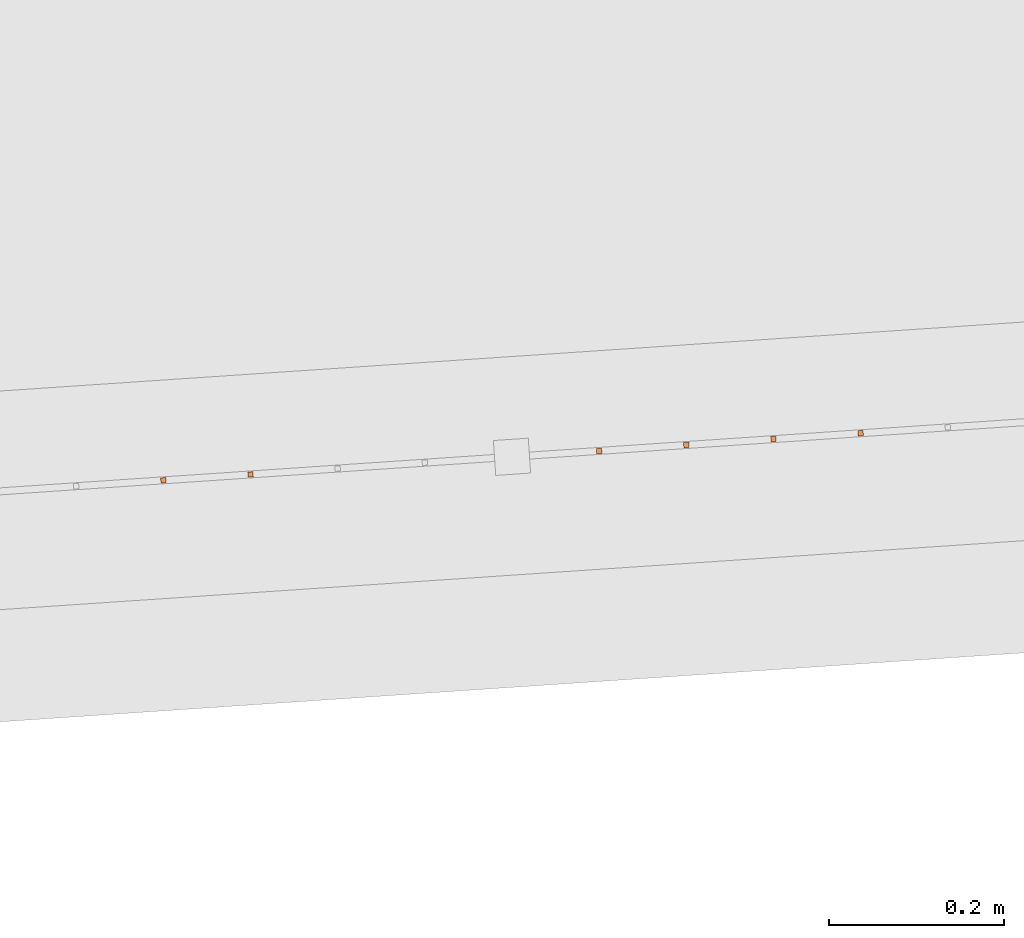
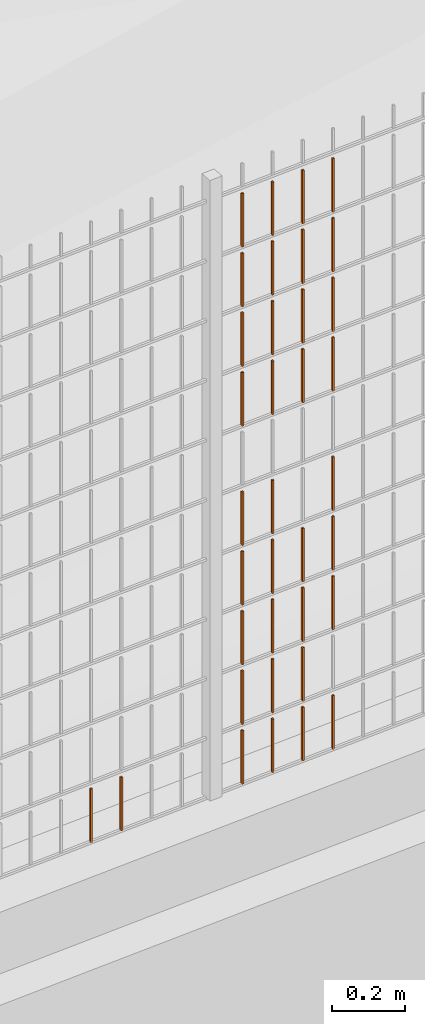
# One storey, part 132 of 1809: 36 proxies, 1 element without a shape of its own.
"""IFC2X3 building model written with IfcOpenShell, lengths in millimetres."""

from ifc_helpers import new_model, entity, si_unit, converted_unit, derived_unit, money_unit, direction, frame, origin_with_axes, place, context, subcontext, project, spatial, faceted_brep, source, transform, mapped, material, type_object, element, aggregate, save


model = new_model("IFC2X3")

# Units and contexts
model_context = context("Model", 3, precision=0.01, world=origin_with_axes(), true_north=direction((0.0, 1.0)))
body_context = subcontext(model_context, "Body", "Model", "MODEL_VIEW")
ifc_project = project(units=[si_unit("LENGTHUNIT", "METRE", prefix="MILLI"), si_unit("AREAUNIT", "SQUARE_METRE"), si_unit("VOLUMEUNIT", "CUBIC_METRE"), converted_unit("PLANEANGLEUNIT", "DEGREE", entity("IfcPlaneAngleMeasure", 0.0174532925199), si_unit("PLANEANGLEUNIT", "RADIAN"), dimensions=[0, 0, 0, 0, 0, 0, 0]), si_unit("SOLIDANGLEUNIT", "STERADIAN"), money_unit("EUR"), converted_unit("TIMEUNIT", "Year", entity("IfcTimeMeasure", 31556926.0), si_unit("TIMEUNIT", "SECOND"), dimensions=[0, 0, 1, 0, 0, 0, 0]), si_unit("MASSUNIT", "GRAM", prefix="KILO"), si_unit("THERMODYNAMICTEMPERATUREUNIT", "DEGREE_CELSIUS"), si_unit("LUMINOUSINTENSITYUNIT", "LUMEN"), si_unit("ENERGYUNIT", "JOULE", prefix="MEGA"), derived_unit("THERMALCONDUCTANCEUNIT", [(si_unit("POWERUNIT", "WATT"), 1), (si_unit("LENGTHUNIT", "METRE"), -1), (si_unit("THERMODYNAMICTEMPERATUREUNIT", "KELVIN"), -1)]), derived_unit("SPECIFICHEATCAPACITYUNIT", [(si_unit("ENERGYUNIT", "JOULE"), 1), (si_unit("MASSUNIT", "GRAM", prefix="KILO"), -1), (si_unit("THERMODYNAMICTEMPERATUREUNIT", "KELVIN"), -1)]), derived_unit("MASSDENSITYUNIT", [(si_unit("MASSUNIT", "GRAM", prefix="KILO"), 1), (si_unit("VOLUMEUNIT", "CUBIC_METRE"), -1)])], contexts=[model_context])

# Site, building, storey
site_placement = place(None, origin_with_axes())
site = spatial("IfcSite", under=ifc_project, at=site_placement, Name="Politse- ja Piirivalveameti ning Päästeameti ühishoone", CompositionType="ELEMENT")
building_placement = place(site_placement, origin_with_axes())
building = spatial("IfcBuilding", under=site, at=building_placement, Name="Politse- ja Piirivalveameti ning Päästeameti ühishoone", CompositionType="ELEMENT")
storey_placement = place(building_placement, origin_with_axes())
storey = spatial("IfcBuildingStorey", under=building, at=storey_placement, Name="Esimene korrus", CompositionType="ELEMENT", Elevation=0.0)

# Proxies
building_element_proxy_type_1 = type_object("IfcBuildingElementProxyType", Name="Railing Type", PredefinedType="NOTDEFINED")
proxy_1_placement = place(storey_placement, frame((89252.001212, -29183.4766571, 203.661247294), z_axis=(0.0, 0.0, 1.0), x_axis=(1.0, 0.0, 0.0)))
proxy_1 = element("IfcBuildingElementProxy", 1, at=proxy_1_placement, inside=storey, type_object=building_element_proxy_type_1, Name="PIIRDEAED")
ifc_material = material(Name="ET-03_Raud")
building_element_proxy_type_2 = type_object("IfcBuildingElementProxyType", Name="IfcBuildingElementProxy", PredefinedType="NOTDEFINED")
shared_shape_1 = source(origin_with_axes(), body_context, "Body", "Brep", [
    faceted_brep([(3.0, 3.0, -0.000752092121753), (-3.0, 3.0, -0.000752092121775), (-3.0, 3.0, 179.99926046), (3.0, 3.0, 179.99926046), (3.0, -3.0, 0.000752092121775), (-3.0, -3.0, 0.000752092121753), (-3.0, -3.0, 180.000764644), (3.0, -3.0, 180.000764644)], [[[0, 1, 2, 3]], [[0, 4, 5, 1]], [[1, 5, 6, 2]], [[3, 2, 6, 7]], [[4, 0, 3, 7]], [[5, 4, 7, 6]]]),
])
proxy_2_placement = place(proxy_1_placement, frame((-89522.6970571, -23344.6951013, 1204.74014047), z_axis=(0.0, 0.0, 1.0), x_axis=(1.0, 0.0, 0.0)))
proxy_2 = element("IfcBuildingElementProxy", 2, at=proxy_2_placement, type_object=building_element_proxy_type_2, material=ifc_material, Name="BALUSTER - 001", context=body_context, shape_type="MappedRepresentation", body=[
    mapped(shared_shape_1, transform((0.0, 0.0, 0.0), x_axis=(-0.0673926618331, 0.997726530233, 0.0), y_axis=(-0.997726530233, -0.0673926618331, 0.0), z_axis=(0.0, 0.0, 1.0))),
])
shared_shape_2 = source(origin_with_axes(), body_context, "Body", "Brep", [
    faceted_brep([(3.0, 3.0, -0.000752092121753), (-3.0, 3.0, -0.000752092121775), (-3.0, 3.0, 179.99926046), (3.0, 3.0, 179.99926046), (3.0, -3.0, 0.000752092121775), (-3.0, -3.0, 0.000752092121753), (-3.0, -3.0, 180.000764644), (3.0, -3.0, 180.000764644)], [[[0, 1, 2, 3]], [[0, 4, 5, 1]], [[1, 5, 6, 2]], [[3, 2, 6, 7]], [[4, 0, 3, 7]], [[5, 4, 7, 6]]]),
])
proxy_3_placement = place(proxy_1_placement, frame((-89522.6970571, -23344.6951013, 1404.74014047), z_axis=(0.0, 0.0, 1.0), x_axis=(1.0, 0.0, 0.0)))
proxy_3 = element("IfcBuildingElementProxy", 3, at=proxy_3_placement, type_object=building_element_proxy_type_2, material=ifc_material, Name="BALUSTER - 001", context=body_context, shape_type="MappedRepresentation", body=[
    mapped(shared_shape_2, transform((0.0, 0.0, 0.0), x_axis=(-0.0673926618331, 0.997726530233, 0.0), y_axis=(-0.997726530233, -0.0673926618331, 0.0), z_axis=(0.0, 0.0, 1.0))),
])
proxy_4_placement = place(proxy_1_placement, frame((-89522.6970571, -23344.6951013, 1604.74014047), z_axis=(0.0, 0.0, 1.0), x_axis=(1.0, 0.0, 0.0)))
proxy_4 = element("IfcBuildingElementProxy", 4, at=proxy_4_placement, type_object=building_element_proxy_type_2, material=ifc_material, Name="BALUSTER - 001", context=body_context, shape_type="MappedRepresentation", body=[
    mapped(shared_shape_2, transform((0.0, 0.0, 0.0), x_axis=(-0.0673926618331, 0.997726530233, 0.0), y_axis=(-0.997726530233, -0.0673926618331, 0.0), z_axis=(0.0, 0.0, 1.0))),
])
shared_shape_3 = source(origin_with_axes(), body_context, "Body", "Brep", [
    faceted_brep([(3.0, 3.0, -0.000752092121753), (-3.0, 3.0, -0.000752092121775), (-3.0, 3.0, 179.99926046), (3.0, 3.0, 179.99926046), (3.0, -3.0, 0.000752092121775), (-3.0, -3.0, 0.000752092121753), (-3.0, -3.0, 180.000764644), (3.0, -3.0, 180.000764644)], [[[0, 1, 2, 3]], [[0, 4, 5, 1]], [[1, 5, 6, 2]], [[3, 2, 6, 7]], [[4, 0, 3, 7]], [[5, 4, 7, 6]]]),
])
proxy_5_placement = place(proxy_1_placement, frame((-89223.379098, -23324.4773028, 404.815349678), z_axis=(0.0, 0.0, 1.0), x_axis=(1.0, 0.0, 0.0)))
proxy_5 = element("IfcBuildingElementProxy", 5, at=proxy_5_placement, type_object=building_element_proxy_type_2, material=ifc_material, Name="BALUSTER - 001", context=body_context, shape_type="MappedRepresentation", body=[
    mapped(shared_shape_3, transform((0.0, 0.0, 0.0), x_axis=(-0.0673926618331, 0.997726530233, 0.0), y_axis=(-0.997726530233, -0.0673926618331, 0.0), z_axis=(0.0, 0.0, 1.0))),
])
proxy_6_placement = place(proxy_1_placement, frame((-89223.379098, -23324.4773028, 604.815349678), z_axis=(0.0, 0.0, 1.0), x_axis=(1.0, 0.0, 0.0)))
proxy_6 = element("IfcBuildingElementProxy", 6, at=proxy_6_placement, type_object=building_element_proxy_type_2, material=ifc_material, Name="BALUSTER - 001", context=body_context, shape_type="MappedRepresentation", body=[
    mapped(shared_shape_3, transform((0.0, 0.0, 0.0), x_axis=(-0.0673926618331, 0.997726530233, 0.0), y_axis=(-0.997726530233, -0.0673926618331, 0.0), z_axis=(0.0, 0.0, 1.0))),
])
shared_shape_4 = source(origin_with_axes(), body_context, "Body", "Brep", [
    faceted_brep([(3.0, 3.0, -0.000752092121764), (-3.0, 3.0, -0.000752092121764), (-3.0, 3.0, 179.99926046), (3.0, 3.0, 179.99926046), (3.0, -3.0, 0.000752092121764), (-3.0, -3.0, 0.000752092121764), (-3.0, -3.0, 180.000764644), (3.0, -3.0, 180.000764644)], [[[0, 1, 2, 3]], [[0, 4, 5, 1]], [[1, 5, 6, 2]], [[3, 2, 6, 7]], [[4, 0, 3, 7]], [[5, 4, 7, 6]]]),
])
proxy_7_placement = place(proxy_1_placement, frame((-89522.6970571, -23344.6951013, 804.740140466), z_axis=(0.0, 0.0, 1.0), x_axis=(1.0, 0.0, 0.0)))
proxy_7 = element("IfcBuildingElementProxy", 7, at=proxy_7_placement, type_object=building_element_proxy_type_2, material=ifc_material, Name="BALUSTER - 001", context=body_context, shape_type="MappedRepresentation", body=[
    mapped(shared_shape_4, transform((0.0, 0.0, 0.0), x_axis=(-0.0673926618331, 0.997726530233, 0.0), y_axis=(-0.997726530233, -0.0673926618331, 0.0), z_axis=(0.0, 0.0, 1.0))),
])
shared_shape_5 = source(origin_with_axes(), body_context, "Body", "Brep", [
    faceted_brep([(3.0, 3.0, -0.000752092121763), (-3.0, 3.0, -0.000752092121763), (-3.0, 3.0, 179.99926046), (3.0, 3.0, 179.99926046), (3.0, -3.0, 0.000752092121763), (-3.0, -3.0, 0.000752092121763), (-3.0, -3.0, 180.000764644), (3.0, -3.0, 180.000764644)], [[[0, 1, 2, 3]], [[0, 4, 5, 1]], [[1, 5, 6, 2]], [[3, 2, 6, 7]], [[4, 0, 3, 7]], [[5, 4, 7, 6]]]),
])
proxy_8_placement = place(proxy_1_placement, frame((-90021.5603222, -23378.3914323, 4.61479177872), z_axis=(0.0, 0.0, 1.0), x_axis=(1.0, 0.0, 0.0)))
proxy_8 = element("IfcBuildingElementProxy", 8, at=proxy_8_placement, type_object=building_element_proxy_type_2, material=ifc_material, Name="BALUSTER - 001", context=body_context, shape_type="MappedRepresentation", body=[
    mapped(shared_shape_5, transform((0.0, 0.0, 0.0), x_axis=(-0.0673926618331, 0.997726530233, 0.0), y_axis=(-0.997726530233, -0.0673926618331, 0.0), z_axis=(0.0, 0.0, 1.0))),
])
shared_shape_6 = source(origin_with_axes(), body_context, "Body", "Brep", [
    faceted_brep([(3.0, 3.0, -0.000752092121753), (-3.0, 3.0, -0.000752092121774), (-3.0, 3.0, 179.99926046), (3.0, 3.0, 179.99926046), (3.0, -3.0, 0.000752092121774), (-3.0, -3.0, 0.000752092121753), (-3.0, -3.0, 180.000764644), (3.0, -3.0, 180.000764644)], [[[0, 1, 2, 3]], [[0, 4, 5, 1]], [[1, 5, 6, 2]], [[3, 2, 6, 7]], [[4, 0, 3, 7]], [[5, 4, 7, 6]]]),
])
proxy_9_placement = place(proxy_1_placement, frame((-89223.379098, -23324.4773028, 4.81534967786), z_axis=(0.0, 0.0, 1.0), x_axis=(1.0, 0.0, 0.0)))
proxy_9 = element("IfcBuildingElementProxy", 9, at=proxy_9_placement, type_object=building_element_proxy_type_2, material=ifc_material, Name="BALUSTER - 001", context=body_context, shape_type="MappedRepresentation", body=[
    mapped(shared_shape_6, transform((0.0, 0.0, 0.0), x_axis=(-0.0673926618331, 0.997726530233, 0.0), y_axis=(-0.997726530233, -0.0673926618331, 0.0), z_axis=(0.0, 0.0, 1.0))),
])
shared_shape_7 = source(origin_with_axes(), body_context, "Body", "Brep", [
    faceted_brep([(3.0, 3.0, -0.000752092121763), (-3.0, 3.0, -0.000752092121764), (-3.0, 3.0, 179.99926046), (3.0, 3.0, 179.99926046), (3.0, -3.0, 0.000752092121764), (-3.0, -3.0, 0.000752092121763), (-3.0, -3.0, 180.000764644), (3.0, -3.0, 180.000764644)], [[[0, 1, 2, 3]], [[0, 4, 5, 1]], [[1, 5, 6, 2]], [[3, 2, 6, 7]], [[4, 0, 3, 7]], [[5, 4, 7, 6]]]),
])
proxy_10_placement = place(proxy_1_placement, frame((-89522.6970571, -23344.6951013, 4.74014046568), z_axis=(0.0, 0.0, 1.0), x_axis=(1.0, 0.0, 0.0)))
proxy_10 = element("IfcBuildingElementProxy", 10, at=proxy_10_placement, type_object=building_element_proxy_type_2, material=ifc_material, Name="BALUSTER - 001", context=body_context, shape_type="MappedRepresentation", body=[
    mapped(shared_shape_7, transform((0.0, 0.0, 0.0), x_axis=(-0.0673926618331, 0.997726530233, 0.0), y_axis=(-0.997726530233, -0.0673926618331, 0.0), z_axis=(0.0, 0.0, 1.0))),
])
shared_shape_8 = source(origin_with_axes(), body_context, "Body", "Brep", [
    faceted_brep([(3.0, 3.0, -0.000752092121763), (-3.0, 3.0, -0.000752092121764), (-3.0, 3.0, 179.99926046), (3.0, 3.0, 179.99926046), (3.0, -3.0, 0.000752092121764), (-3.0, -3.0, 0.000752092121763), (-3.0, -3.0, 180.000764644), (3.0, -3.0, 180.000764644)], [[[0, 1, 2, 3]], [[0, 4, 5, 1]], [[1, 5, 6, 2]], [[3, 2, 6, 7]], [[4, 0, 3, 7]], [[5, 4, 7, 6]]]),
])
proxy_11_placement = place(proxy_1_placement, frame((-89323.151751, -23331.216569, 4.79027994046), z_axis=(0.0, 0.0, 1.0), x_axis=(1.0, 0.0, 0.0)))
proxy_11 = element("IfcBuildingElementProxy", 11, at=proxy_11_placement, type_object=building_element_proxy_type_2, material=ifc_material, Name="BALUSTER - 001", context=body_context, shape_type="MappedRepresentation", body=[
    mapped(shared_shape_8, transform((0.0, 0.0, 0.0), x_axis=(-0.0673926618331, 0.997726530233, 0.0), y_axis=(-0.997726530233, -0.0673926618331, 0.0), z_axis=(0.0, 0.0, 1.0))),
])
shared_shape_9 = source(origin_with_axes(), body_context, "Body", "Brep", [
    faceted_brep([(3.0, 3.0, -0.000752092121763), (-3.0, 3.0, -0.000752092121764), (-3.0, 3.0, 179.99926046), (3.0, 3.0, 179.99926046), (3.0, -3.0, 0.000752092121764), (-3.0, -3.0, 0.000752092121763), (-3.0, -3.0, 180.000764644), (3.0, -3.0, 180.000764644)], [[[0, 1, 2, 3]], [[0, 4, 5, 1]], [[1, 5, 6, 2]], [[3, 2, 6, 7]], [[4, 0, 3, 7]], [[5, 4, 7, 6]]]),
])
proxy_12_placement = place(proxy_1_placement, frame((-89422.9244041, -23337.9558352, 4.76521020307), z_axis=(0.0, 0.0, 1.0), x_axis=(1.0, 0.0, 0.0)))
proxy_12 = element("IfcBuildingElementProxy", 12, at=proxy_12_placement, type_object=building_element_proxy_type_2, material=ifc_material, Name="BALUSTER - 001", context=body_context, shape_type="MappedRepresentation", body=[
    mapped(shared_shape_9, transform((0.0, 0.0, 0.0), x_axis=(-0.0673926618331, 0.997726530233, 0.0), y_axis=(-0.997726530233, -0.0673926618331, 0.0), z_axis=(0.0, 0.0, 1.0))),
])
shared_shape_10 = source(origin_with_axes(), body_context, "Body", "Brep", [
    faceted_brep([(3.0, 3.0, -0.000752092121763), (-3.0, 3.0, -0.000752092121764), (-3.0, 3.0, 179.99926046), (3.0, 3.0, 179.99926046), (3.0, -3.0, 0.000752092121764), (-3.0, -3.0, 0.000752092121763), (-3.0, -3.0, 180.000764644), (3.0, -3.0, 180.000764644)], [[[0, 1, 2, 3]], [[0, 4, 5, 1]], [[1, 5, 6, 2]], [[3, 2, 6, 7]], [[4, 0, 3, 7]], [[5, 4, 7, 6]]]),
])
proxy_13_placement = place(proxy_1_placement, frame((-89422.9244041, -23337.9558352, 404.765210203), z_axis=(0.0, 0.0, 1.0), x_axis=(1.0, 0.0, 0.0)))
proxy_13 = element("IfcBuildingElementProxy", 13, at=proxy_13_placement, type_object=building_element_proxy_type_2, material=ifc_material, Name="BALUSTER - 001", context=body_context, shape_type="MappedRepresentation", body=[
    mapped(shared_shape_10, transform((0.0, 0.0, 0.0), x_axis=(-0.0673926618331, 0.997726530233, 0.0), y_axis=(-0.997726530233, -0.0673926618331, 0.0), z_axis=(0.0, 0.0, 1.0))),
])
proxy_14_placement = place(proxy_1_placement, frame((-89522.6970571, -23344.6951013, 604.740140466), z_axis=(0.0, 0.0, 1.0), x_axis=(1.0, 0.0, 0.0)))
proxy_14 = element("IfcBuildingElementProxy", 14, at=proxy_14_placement, type_object=building_element_proxy_type_2, material=ifc_material, Name="BALUSTER - 001", context=body_context, shape_type="MappedRepresentation", body=[
    mapped(shared_shape_10, transform((0.0, 0.0, 0.0), x_axis=(-0.0673926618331, 0.997726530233, 0.0), y_axis=(-0.997726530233, -0.0673926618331, 0.0), z_axis=(0.0, 0.0, 1.0))),
])
shared_shape_11 = source(origin_with_axes(), body_context, "Body", "Brep", [
    faceted_brep([(3.0, 3.0, -0.000752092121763), (-3.0, 3.0, -0.000752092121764), (-3.0, 3.0, 179.99926046), (3.0, 3.0, 179.99926046), (3.0, -3.0, 0.000752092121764), (-3.0, -3.0, 0.000752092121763), (-3.0, -3.0, 180.000764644), (3.0, -3.0, 180.000764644)], [[[0, 1, 2, 3]], [[0, 4, 5, 1]], [[1, 5, 6, 2]], [[3, 2, 6, 7]], [[4, 0, 3, 7]], [[5, 4, 7, 6]]]),
])
proxy_15_placement = place(proxy_1_placement, frame((-89522.6970571, -23344.6951013, 204.740140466), z_axis=(0.0, 0.0, 1.0), x_axis=(1.0, 0.0, 0.0)))
proxy_15 = element("IfcBuildingElementProxy", 15, at=proxy_15_placement, type_object=building_element_proxy_type_2, material=ifc_material, Name="BALUSTER - 001", context=body_context, shape_type="MappedRepresentation", body=[
    mapped(shared_shape_11, transform((0.0, 0.0, 0.0), x_axis=(-0.0673926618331, 0.997726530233, 0.0), y_axis=(-0.997726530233, -0.0673926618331, 0.0), z_axis=(0.0, 0.0, 1.0))),
])
shared_shape_12 = source(origin_with_axes(), body_context, "Body", "Brep", [
    faceted_brep([(3.0, 3.0, -0.000752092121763), (-3.0, 3.0, -0.000752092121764), (-3.0, 3.0, 179.99926046), (3.0, 3.0, 179.99926046), (3.0, -3.0, 0.000752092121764), (-3.0, -3.0, 0.000752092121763), (-3.0, -3.0, 180.000764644), (3.0, -3.0, 180.000764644)], [[[0, 1, 2, 3]], [[0, 4, 5, 1]], [[1, 5, 6, 2]], [[3, 2, 6, 7]], [[4, 0, 3, 7]], [[5, 4, 7, 6]]]),
])
proxy_16_placement = place(proxy_1_placement, frame((-89422.9244041, -23337.9558352, 204.765210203), z_axis=(0.0, 0.0, 1.0), x_axis=(1.0, 0.0, 0.0)))
proxy_16 = element("IfcBuildingElementProxy", 16, at=proxy_16_placement, type_object=building_element_proxy_type_2, material=ifc_material, Name="BALUSTER - 001", context=body_context, shape_type="MappedRepresentation", body=[
    mapped(shared_shape_12, transform((0.0, 0.0, 0.0), x_axis=(-0.0673926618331, 0.997726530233, 0.0), y_axis=(-0.997726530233, -0.0673926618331, 0.0), z_axis=(0.0, 0.0, 1.0))),
])
proxy_17_placement = place(proxy_1_placement, frame((-89522.6970571, -23344.6951013, 404.740140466), z_axis=(0.0, 0.0, 1.0), x_axis=(1.0, 0.0, 0.0)))
proxy_17 = element("IfcBuildingElementProxy", 17, at=proxy_17_placement, type_object=building_element_proxy_type_2, material=ifc_material, Name="BALUSTER - 001", context=body_context, shape_type="MappedRepresentation", body=[
    mapped(shared_shape_12, transform((0.0, 0.0, 0.0), x_axis=(-0.0673926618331, 0.997726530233, 0.0), y_axis=(-0.997726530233, -0.0673926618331, 0.0), z_axis=(0.0, 0.0, 1.0))),
])
proxy_18_placement = place(proxy_1_placement, frame((-89422.9244041, -23337.9558352, 604.765210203), z_axis=(0.0, 0.0, 1.0), x_axis=(1.0, 0.0, 0.0)))
proxy_18 = element("IfcBuildingElementProxy", 18, at=proxy_18_placement, type_object=building_element_proxy_type_2, material=ifc_material, Name="BALUSTER - 001", context=body_context, shape_type="MappedRepresentation", body=[
    mapped(shared_shape_12, transform((0.0, 0.0, 0.0), x_axis=(-0.0673926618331, 0.997726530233, 0.0), y_axis=(-0.997726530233, -0.0673926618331, 0.0), z_axis=(0.0, 0.0, 1.0))),
])
shared_shape_13 = source(origin_with_axes(), body_context, "Body", "Brep", [
    faceted_brep([(3.0, 3.0, -0.000752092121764), (-3.0, 3.0, -0.000752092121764), (-3.0, 3.0, 179.99926046), (3.0, 3.0, 179.99926046), (3.0, -3.0, 0.000752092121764), (-3.0, -3.0, 0.000752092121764), (-3.0, -3.0, 180.000764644), (3.0, -3.0, 180.000764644)], [[[0, 1, 2, 3]], [[0, 4, 5, 1]], [[1, 5, 6, 2]], [[3, 2, 6, 7]], [[4, 0, 3, 7]], [[5, 4, 7, 6]]]),
])
proxy_19_placement = place(proxy_1_placement, frame((-89323.151751, -23331.216569, 1204.79027994), z_axis=(0.0, 0.0, 1.0), x_axis=(1.0, 0.0, 0.0)))
proxy_19 = element("IfcBuildingElementProxy", 19, at=proxy_19_placement, type_object=building_element_proxy_type_2, material=ifc_material, Name="BALUSTER - 001", context=body_context, shape_type="MappedRepresentation", body=[
    mapped(shared_shape_13, transform((0.0, 0.0, 0.0), x_axis=(-0.0673926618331, 0.997726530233, 0.0), y_axis=(-0.997726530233, -0.0673926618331, 0.0), z_axis=(0.0, 0.0, 1.0))),
])
shared_shape_14 = source(origin_with_axes(), body_context, "Body", "Brep", [
    faceted_brep([(3.0, 3.0, -0.000752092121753), (-3.0, 3.0, -0.000752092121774), (-3.0, 3.0, 179.99926046), (3.0, 3.0, 179.99926046), (3.0, -3.0, 0.000752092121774), (-3.0, -3.0, 0.000752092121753), (-3.0, -3.0, 180.000764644), (3.0, -3.0, 180.000764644)], [[[0, 1, 2, 3]], [[0, 4, 5, 1]], [[1, 5, 6, 2]], [[3, 2, 6, 7]], [[4, 0, 3, 7]], [[5, 4, 7, 6]]]),
])
proxy_20_placement = place(proxy_1_placement, frame((-89223.379098, -23324.4773028, 804.815349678), z_axis=(0.0, 0.0, 1.0), x_axis=(1.0, 0.0, 0.0)))
proxy_20 = element("IfcBuildingElementProxy", 20, at=proxy_20_placement, type_object=building_element_proxy_type_2, material=ifc_material, Name="BALUSTER - 001", context=body_context, shape_type="MappedRepresentation", body=[
    mapped(shared_shape_14, transform((0.0, 0.0, 0.0), x_axis=(-0.0673926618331, 0.997726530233, 0.0), y_axis=(-0.997726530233, -0.0673926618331, 0.0), z_axis=(0.0, 0.0, 1.0))),
])
proxy_21_placement = place(proxy_1_placement, frame((-89223.379098, -23324.4773028, 1204.81534968), z_axis=(0.0, 0.0, 1.0), x_axis=(1.0, 0.0, 0.0)))
proxy_21 = element("IfcBuildingElementProxy", 21, at=proxy_21_placement, type_object=building_element_proxy_type_2, material=ifc_material, Name="BALUSTER - 001", context=body_context, shape_type="MappedRepresentation", body=[
    mapped(shared_shape_14, transform((0.0, 0.0, 0.0), x_axis=(-0.0673926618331, 0.997726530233, 0.0), y_axis=(-0.997726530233, -0.0673926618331, 0.0), z_axis=(0.0, 0.0, 1.0))),
])
shared_shape_15 = source(origin_with_axes(), body_context, "Body", "Brep", [
    faceted_brep([(3.0, 3.0, -0.000752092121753), (-3.0, 3.0, -0.000752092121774), (-3.0, 3.0, 179.99926046), (3.0, 3.0, 179.99926046), (3.0, -3.0, 0.000752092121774), (-3.0, -3.0, 0.000752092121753), (-3.0, -3.0, 180.000764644), (3.0, -3.0, 180.000764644)], [[[0, 1, 2, 3]], [[0, 4, 5, 1]], [[1, 5, 6, 2]], [[3, 2, 6, 7]], [[4, 0, 3, 7]], [[5, 4, 7, 6]]]),
])
proxy_22_placement = place(proxy_1_placement, frame((-89223.379098, -23324.4773028, 1804.81534968), z_axis=(0.0, 0.0, 1.0), x_axis=(1.0, 0.0, 0.0)))
proxy_22 = element("IfcBuildingElementProxy", 22, at=proxy_22_placement, type_object=building_element_proxy_type_2, material=ifc_material, Name="BALUSTER - 001", context=body_context, shape_type="MappedRepresentation", body=[
    mapped(shared_shape_15, transform((0.0, 0.0, 0.0), x_axis=(-0.0673926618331, 0.997726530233, 0.0), y_axis=(-0.997726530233, -0.0673926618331, 0.0), z_axis=(0.0, 0.0, 1.0))),
])
shared_shape_16 = source(origin_with_axes(), body_context, "Body", "Brep", [
    faceted_brep([(3.0, 3.0, -0.000752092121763), (-3.0, 3.0, -0.000752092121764), (-3.0, 3.0, 179.99926046), (3.0, 3.0, 179.99926046), (3.0, -3.0, 0.000752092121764), (-3.0, -3.0, 0.000752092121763), (-3.0, -3.0, 180.000764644), (3.0, -3.0, 180.000764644)], [[[0, 1, 2, 3]], [[0, 4, 5, 1]], [[1, 5, 6, 2]], [[3, 2, 6, 7]], [[4, 0, 3, 7]], [[5, 4, 7, 6]]]),
])
proxy_23_placement = place(proxy_1_placement, frame((-89422.9244041, -23337.9558352, 1204.7652102), z_axis=(0.0, 0.0, 1.0), x_axis=(1.0, 0.0, 0.0)))
proxy_23 = element("IfcBuildingElementProxy", 23, at=proxy_23_placement, type_object=building_element_proxy_type_2, material=ifc_material, Name="BALUSTER - 001", context=body_context, shape_type="MappedRepresentation", body=[
    mapped(shared_shape_16, transform((0.0, 0.0, 0.0), x_axis=(-0.0673926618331, 0.997726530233, 0.0), y_axis=(-0.997726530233, -0.0673926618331, 0.0), z_axis=(0.0, 0.0, 1.0))),
])
shared_shape_17 = source(origin_with_axes(), body_context, "Body", "Brep", [
    faceted_brep([(3.0, 3.0, -0.000752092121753), (-3.0, 3.0, -0.000752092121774), (-3.0, 3.0, 179.99926046), (3.0, 3.0, 179.99926046), (3.0, -3.0, 0.000752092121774), (-3.0, -3.0, 0.000752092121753), (-3.0, -3.0, 180.000764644), (3.0, -3.0, 180.000764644)], [[[0, 1, 2, 3]], [[0, 4, 5, 1]], [[1, 5, 6, 2]], [[3, 2, 6, 7]], [[4, 0, 3, 7]], [[5, 4, 7, 6]]]),
])
proxy_24_placement = place(proxy_1_placement, frame((-89522.6970571, -23344.6951013, 1804.74014047), z_axis=(0.0, 0.0, 1.0), x_axis=(1.0, 0.0, 0.0)))
proxy_24 = element("IfcBuildingElementProxy", 24, at=proxy_24_placement, type_object=building_element_proxy_type_2, material=ifc_material, Name="BALUSTER - 001", context=body_context, shape_type="MappedRepresentation", body=[
    mapped(shared_shape_17, transform((0.0, 0.0, 0.0), x_axis=(-0.0673926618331, 0.997726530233, 0.0), y_axis=(-0.997726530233, -0.0673926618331, 0.0), z_axis=(0.0, 0.0, 1.0))),
])
shared_shape_18 = source(origin_with_axes(), body_context, "Body", "Brep", [
    faceted_brep([(3.0, 3.0, -0.000752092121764), (-3.0, 3.0, -0.000752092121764), (-3.0, 3.0, 179.99926046), (3.0, 3.0, 179.99926046), (3.0, -3.0, 0.000752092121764), (-3.0, -3.0, 0.000752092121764), (-3.0, -3.0, 180.000764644), (3.0, -3.0, 180.000764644)], [[[0, 1, 2, 3]], [[0, 4, 5, 1]], [[1, 5, 6, 2]], [[3, 2, 6, 7]], [[4, 0, 3, 7]], [[5, 4, 7, 6]]]),
])
proxy_25_placement = place(proxy_1_placement, frame((-89323.151751, -23331.216569, 1804.79027994), z_axis=(0.0, 0.0, 1.0), x_axis=(1.0, 0.0, 0.0)))
proxy_25 = element("IfcBuildingElementProxy", 25, at=proxy_25_placement, type_object=building_element_proxy_type_2, material=ifc_material, Name="BALUSTER - 001", context=body_context, shape_type="MappedRepresentation", body=[
    mapped(shared_shape_18, transform((0.0, 0.0, 0.0), x_axis=(-0.0673926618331, 0.997726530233, 0.0), y_axis=(-0.997726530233, -0.0673926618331, 0.0), z_axis=(0.0, 0.0, 1.0))),
])
shared_shape_19 = source(origin_with_axes(), body_context, "Body", "Brep", [
    faceted_brep([(3.0, 3.0, -0.000752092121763), (-3.0, 3.0, -0.000752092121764), (-3.0, 3.0, 179.99926046), (3.0, 3.0, 179.99926046), (3.0, -3.0, 0.000752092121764), (-3.0, -3.0, 0.000752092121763), (-3.0, -3.0, 180.000764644), (3.0, -3.0, 180.000764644)], [[[0, 1, 2, 3]], [[0, 4, 5, 1]], [[1, 5, 6, 2]], [[3, 2, 6, 7]], [[4, 0, 3, 7]], [[5, 4, 7, 6]]]),
])
proxy_26_placement = place(proxy_1_placement, frame((-89422.9244041, -23337.9558352, 804.765210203), z_axis=(0.0, 0.0, 1.0), x_axis=(1.0, 0.0, 0.0)))
proxy_26 = element("IfcBuildingElementProxy", 26, at=proxy_26_placement, type_object=building_element_proxy_type_2, material=ifc_material, Name="BALUSTER - 001", context=body_context, shape_type="MappedRepresentation", body=[
    mapped(shared_shape_19, transform((0.0, 0.0, 0.0), x_axis=(-0.0673926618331, 0.997726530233, 0.0), y_axis=(-0.997726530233, -0.0673926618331, 0.0), z_axis=(0.0, 0.0, 1.0))),
])
proxy_27_placement = place(proxy_1_placement, frame((-89422.9244041, -23337.9558352, 1804.7652102), z_axis=(0.0, 0.0, 1.0), x_axis=(1.0, 0.0, 0.0)))
proxy_27 = element("IfcBuildingElementProxy", 27, at=proxy_27_placement, type_object=building_element_proxy_type_2, material=ifc_material, Name="BALUSTER - 001", context=body_context, shape_type="MappedRepresentation", body=[
    mapped(shared_shape_19, transform((0.0, 0.0, 0.0), x_axis=(-0.0673926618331, 0.997726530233, 0.0), y_axis=(-0.997726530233, -0.0673926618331, 0.0), z_axis=(0.0, 0.0, 1.0))),
])
shared_shape_20 = source(origin_with_axes(), body_context, "Body", "Brep", [
    faceted_brep([(3.0, 3.0, -0.000752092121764), (-3.0, 3.0, -0.000752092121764), (-3.0, 3.0, 179.99926046), (3.0, 3.0, 179.99926046), (3.0, -3.0, 0.000752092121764), (-3.0, -3.0, 0.000752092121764), (-3.0, -3.0, 180.000764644), (3.0, -3.0, 180.000764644)], [[[0, 1, 2, 3]], [[0, 4, 5, 1]], [[1, 5, 6, 2]], [[3, 2, 6, 7]], [[4, 0, 3, 7]], [[5, 4, 7, 6]]]),
])
proxy_28_placement = place(proxy_1_placement, frame((-89323.151751, -23331.216569, 1404.79027994), z_axis=(0.0, 0.0, 1.0), x_axis=(1.0, 0.0, 0.0)))
proxy_28 = element("IfcBuildingElementProxy", 28, at=proxy_28_placement, type_object=building_element_proxy_type_2, material=ifc_material, Name="BALUSTER - 001", context=body_context, shape_type="MappedRepresentation", body=[
    mapped(shared_shape_20, transform((0.0, 0.0, 0.0), x_axis=(-0.0673926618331, 0.997726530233, 0.0), y_axis=(-0.997726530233, -0.0673926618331, 0.0), z_axis=(0.0, 0.0, 1.0))),
])
proxy_29_placement = place(proxy_1_placement, frame((-89323.151751, -23331.216569, 1604.79027994), z_axis=(0.0, 0.0, 1.0), x_axis=(1.0, 0.0, 0.0)))
proxy_29 = element("IfcBuildingElementProxy", 29, at=proxy_29_placement, type_object=building_element_proxy_type_2, material=ifc_material, Name="BALUSTER - 001", context=body_context, shape_type="MappedRepresentation", body=[
    mapped(shared_shape_20, transform((0.0, 0.0, 0.0), x_axis=(-0.0673926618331, 0.997726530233, 0.0), y_axis=(-0.997726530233, -0.0673926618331, 0.0), z_axis=(0.0, 0.0, 1.0))),
])
shared_shape_21 = source(origin_with_axes(), body_context, "Body", "Brep", [
    faceted_brep([(3.0, 3.0, -0.000752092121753), (-3.0, 3.0, -0.000752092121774), (-3.0, 3.0, 179.99926046), (3.0, 3.0, 179.99926046), (3.0, -3.0, 0.000752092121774), (-3.0, -3.0, 0.000752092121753), (-3.0, -3.0, 180.000764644), (3.0, -3.0, 180.000764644)], [[[0, 1, 2, 3]], [[0, 4, 5, 1]], [[1, 5, 6, 2]], [[3, 2, 6, 7]], [[4, 0, 3, 7]], [[5, 4, 7, 6]]]),
])
proxy_30_placement = place(proxy_1_placement, frame((-89223.379098, -23324.4773028, 1404.81534968), z_axis=(0.0, 0.0, 1.0), x_axis=(1.0, 0.0, 0.0)))
proxy_30 = element("IfcBuildingElementProxy", 30, at=proxy_30_placement, type_object=building_element_proxy_type_2, material=ifc_material, Name="BALUSTER - 001", context=body_context, shape_type="MappedRepresentation", body=[
    mapped(shared_shape_21, transform((0.0, 0.0, 0.0), x_axis=(-0.0673926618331, 0.997726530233, 0.0), y_axis=(-0.997726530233, -0.0673926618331, 0.0), z_axis=(0.0, 0.0, 1.0))),
])
proxy_31_placement = place(proxy_1_placement, frame((-89223.379098, -23324.4773028, 1604.81534968), z_axis=(0.0, 0.0, 1.0), x_axis=(1.0, 0.0, 0.0)))
proxy_31 = element("IfcBuildingElementProxy", 31, at=proxy_31_placement, type_object=building_element_proxy_type_2, material=ifc_material, Name="BALUSTER - 001", context=body_context, shape_type="MappedRepresentation", body=[
    mapped(shared_shape_21, transform((0.0, 0.0, 0.0), x_axis=(-0.0673926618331, 0.997726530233, 0.0), y_axis=(-0.997726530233, -0.0673926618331, 0.0), z_axis=(0.0, 0.0, 1.0))),
])
shared_shape_22 = source(origin_with_axes(), body_context, "Body", "Brep", [
    faceted_brep([(3.0, 3.0, -0.000752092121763), (-3.0, 3.0, -0.000752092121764), (-3.0, 3.0, 179.99926046), (3.0, 3.0, 179.99926046), (3.0, -3.0, 0.000752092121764), (-3.0, -3.0, 0.000752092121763), (-3.0, -3.0, 180.000764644), (3.0, -3.0, 180.000764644)], [[[0, 1, 2, 3]], [[0, 4, 5, 1]], [[1, 5, 6, 2]], [[3, 2, 6, 7]], [[4, 0, 3, 7]], [[5, 4, 7, 6]]]),
])
proxy_32_placement = place(proxy_1_placement, frame((-89323.151751, -23331.216569, 204.79027994), z_axis=(0.0, 0.0, 1.0), x_axis=(1.0, 0.0, 0.0)))
proxy_32 = element("IfcBuildingElementProxy", 32, at=proxy_32_placement, type_object=building_element_proxy_type_2, material=ifc_material, Name="BALUSTER - 001", context=body_context, shape_type="MappedRepresentation", body=[
    mapped(shared_shape_22, transform((0.0, 0.0, 0.0), x_axis=(-0.0673926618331, 0.997726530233, 0.0), y_axis=(-0.997726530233, -0.0673926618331, 0.0), z_axis=(0.0, 0.0, 1.0))),
])
proxy_33_placement = place(proxy_1_placement, frame((-89323.151751, -23331.216569, 404.79027994), z_axis=(0.0, 0.0, 1.0), x_axis=(1.0, 0.0, 0.0)))
proxy_33 = element("IfcBuildingElementProxy", 33, at=proxy_33_placement, type_object=building_element_proxy_type_2, material=ifc_material, Name="BALUSTER - 001", context=body_context, shape_type="MappedRepresentation", body=[
    mapped(shared_shape_22, transform((0.0, 0.0, 0.0), x_axis=(-0.0673926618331, 0.997726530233, 0.0), y_axis=(-0.997726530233, -0.0673926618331, 0.0), z_axis=(0.0, 0.0, 1.0))),
])
proxy_34_placement = place(proxy_1_placement, frame((-89323.151751, -23331.216569, 604.79027994), z_axis=(0.0, 0.0, 1.0), x_axis=(1.0, 0.0, 0.0)))
proxy_34 = element("IfcBuildingElementProxy", 34, at=proxy_34_placement, type_object=building_element_proxy_type_2, material=ifc_material, Name="BALUSTER - 001", context=body_context, shape_type="MappedRepresentation", body=[
    mapped(shared_shape_22, transform((0.0, 0.0, 0.0), x_axis=(-0.0673926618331, 0.997726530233, 0.0), y_axis=(-0.997726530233, -0.0673926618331, 0.0), z_axis=(0.0, 0.0, 1.0))),
])
shared_shape_23 = source(origin_with_axes(), body_context, "Body", "Brep", [
    faceted_brep([(3.0, 3.0, -0.000752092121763), (-3.0, 3.0, -0.000752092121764), (-3.0, 3.0, 179.99926046), (3.0, 3.0, 179.99926046), (3.0, -3.0, 0.000752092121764), (-3.0, -3.0, 0.000752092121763), (-3.0, -3.0, 180.000764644), (3.0, -3.0, 180.000764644)], [[[0, 1, 2, 3]], [[0, 4, 5, 1]], [[1, 5, 6, 2]], [[3, 2, 6, 7]], [[4, 0, 3, 7]], [[5, 4, 7, 6]]]),
])
proxy_35_placement = place(proxy_1_placement, frame((-89422.9244041, -23337.9558352, 1404.7652102), z_axis=(0.0, 0.0, 1.0), x_axis=(1.0, 0.0, 0.0)))
proxy_35 = element("IfcBuildingElementProxy", 35, at=proxy_35_placement, type_object=building_element_proxy_type_2, material=ifc_material, Name="BALUSTER - 001", context=body_context, shape_type="MappedRepresentation", body=[
    mapped(shared_shape_23, transform((0.0, 0.0, 0.0), x_axis=(-0.0673926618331, 0.997726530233, 0.0), y_axis=(-0.997726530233, -0.0673926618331, 0.0), z_axis=(0.0, 0.0, 1.0))),
])
proxy_36_placement = place(proxy_1_placement, frame((-89422.9244041, -23337.9558352, 1604.7652102), z_axis=(0.0, 0.0, 1.0), x_axis=(1.0, 0.0, 0.0)))
proxy_36 = element("IfcBuildingElementProxy", 36, at=proxy_36_placement, type_object=building_element_proxy_type_2, material=ifc_material, Name="BALUSTER - 001", context=body_context, shape_type="MappedRepresentation", body=[
    mapped(shared_shape_23, transform((0.0, 0.0, 0.0), x_axis=(-0.0673926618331, 0.997726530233, 0.0), y_axis=(-0.997726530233, -0.0673926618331, 0.0), z_axis=(0.0, 0.0, 1.0))),
])
shared_shape_24 = source(origin_with_axes(), body_context, "Body", "Brep", [
    faceted_brep([(3.0, 3.0, -0.000752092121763), (-3.0, 3.0, -0.000752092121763), (-3.0, 3.0, 179.99926046), (3.0, 3.0, 179.99926046), (3.0, -3.0, 0.000752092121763), (-3.0, -3.0, 0.000752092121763), (-3.0, -3.0, 180.000764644), (3.0, -3.0, 180.000764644)], [[[0, 1, 2, 3]], [[0, 4, 5, 1]], [[1, 5, 6, 2]], [[3, 2, 6, 7]], [[4, 0, 3, 7]], [[5, 4, 7, 6]]]),
])
proxy_37_placement = place(proxy_1_placement, frame((-89921.7876692, -23371.6521661, 4.63986151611), z_axis=(0.0, 0.0, 1.0), x_axis=(1.0, 0.0, 0.0)))
proxy_37 = element("IfcBuildingElementProxy", 37, at=proxy_37_placement, type_object=building_element_proxy_type_2, material=ifc_material, Name="BALUSTER - 001", context=body_context, shape_type="MappedRepresentation", body=[
    mapped(shared_shape_24, transform((0.0, 0.0, 0.0), x_axis=(-0.0673926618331, 0.997726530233, 0.0), y_axis=(-0.997726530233, -0.0673926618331, 0.0), z_axis=(0.0, 0.0, 1.0))),
])
aggregate(proxy_1, [proxy_9, proxy_11, proxy_12, proxy_10, proxy_32, proxy_16, proxy_15, proxy_5, proxy_33, proxy_13, proxy_17, proxy_6, proxy_34, proxy_18, proxy_14, proxy_20, proxy_26, proxy_7, proxy_21, proxy_19, proxy_23, proxy_2, proxy_30, proxy_28, proxy_35, proxy_3, proxy_31, proxy_29, proxy_36, proxy_4, proxy_22, proxy_25, proxy_27, proxy_24, proxy_37, proxy_8])

save(model, "model.ifc")
